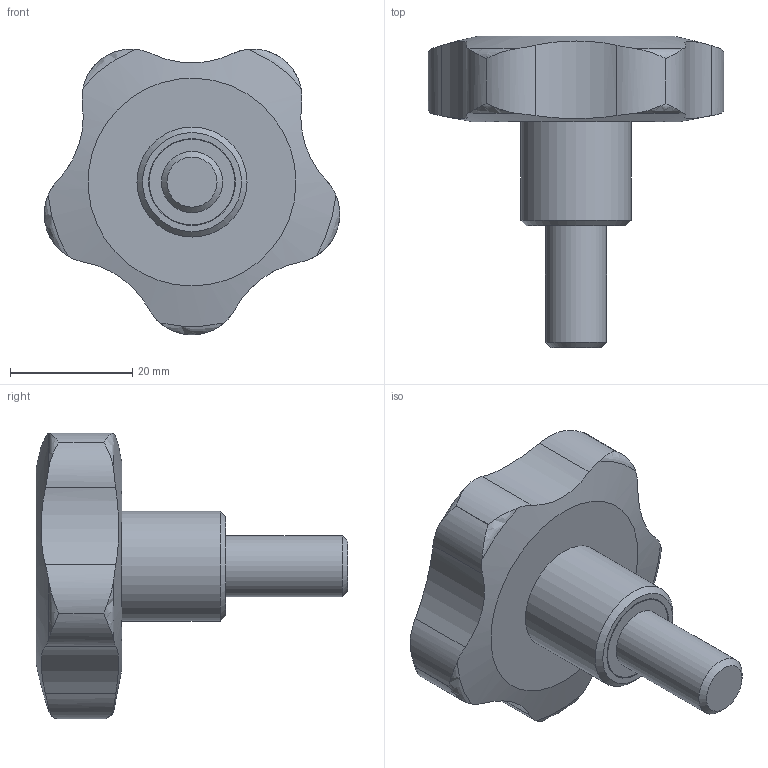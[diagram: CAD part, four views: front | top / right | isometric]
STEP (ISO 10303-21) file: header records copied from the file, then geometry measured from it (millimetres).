
FILE_DESCRIPTION( ( 'STEP AP203' ), '1' );
FILE_NAME( 'C:/Temp/Ganter_Step_05_03_2020/data/2_2/gn_5337_4/gn_5337_4_s/Star knob GN 5337.4-50-M10-20.stp', '2020-03-05T12:09:49', ( 'License CC BY-ND 4.0' ), ( 'CADENAS' ), ' ', 'PARTsolutions', ' ' );
FILE_SCHEMA( ( 'CONFIG_CONTROL_DESIGN' ) );
Length unit declared in the file: millimetre
Products named in the file (1): _Star knob GN 5337.4-50-M10-20
Bounding box: 48.33 x 51 x 46.75 mm (x, y, z)
Volume: 26103.5 mm3; surface area: 6431.2 mm2
Topology: 1 solids, 1 shells, 44 faces, 115 edges, 76 vertices
Faces by surface type: cylinder 24, torus 10, plane 5, cone 3, bspline 1, sphere 1
Full cylindrical faces by diameter (mm): 10 x1, 14 x1, 14.2 x1, 18 x1
Entity records: 1975 total; most frequent: CARTESIAN_POINT 974, ORIENTED_EDGE 204, DIRECTION 172, EDGE_CURVE 102, AXIS2_PLACEMENT_3D 76, VERTEX_POINT 74, EDGE_LOOP 56, B_SPLINE_CURVE_WITH_KNOTS 50
